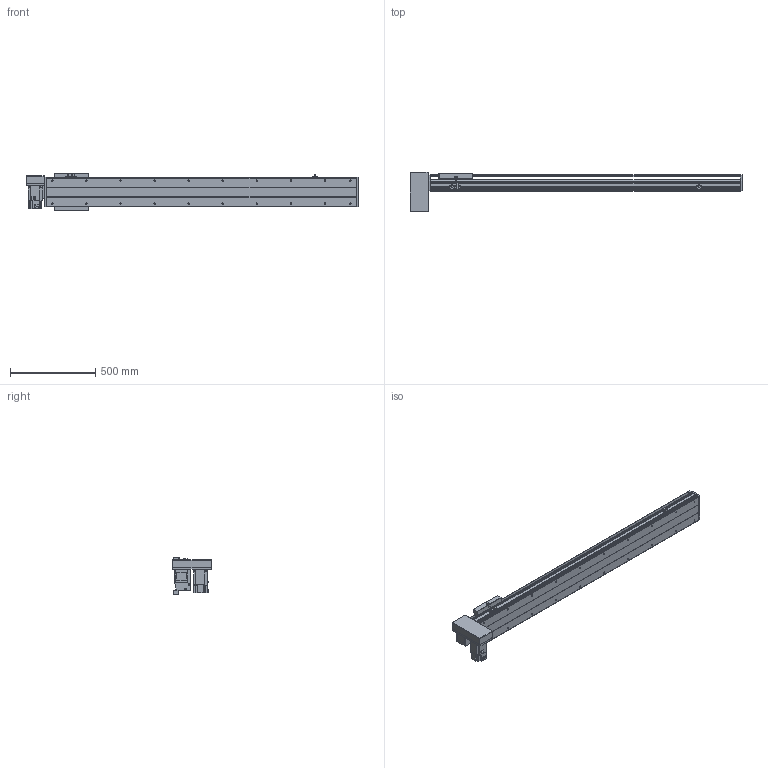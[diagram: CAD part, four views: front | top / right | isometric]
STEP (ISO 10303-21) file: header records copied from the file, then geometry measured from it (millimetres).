
FILE_DESCRIPTION(/* description */ ('STEP AP214'),/* implementation_level */ '2;1');
FILE_NAME(/* name */ 'PBS200-P40-S1450-RD-T75-C1-N(0)',/* time_stamp */ '2022-06-11T09:29:58+02:00',/* author */ ('License CC BY-ND 4.0'),/* organization */ ('CADENAS'),/* preprocessor_version */ 'ST-DEVELOPER v18.102',/* originating_system */ 'PARTsolutions',/* authorisation */ ' ');
FILE_SCHEMA (('AUTOMOTIVE_DESIGN {1 0 10303 214 3 1 1}'));
Length unit declared in the file: millimetre
Products named in the file (7): PBS200-P40-S1450-RD-T75-C1-N(0); PBS200_sensor; PBS200_plant; PBS200_sliser; T75-p1; PBS200T-RD_motors; PBS200-S1450()_body
Assembly tree (8 placements, depth 2):
  PBS200-P40-S1450-RD-T75-C1-N(0)
    PBS200_sensor  x3
    PBS200_plant
    PBS200_sliser
    T75-p1
    PBS200T-RD_motors
    PBS200-S1450()_body
Bounding box: 1950 x 230 x 221 mm (x, y, z)
Volume: 14047396.6 mm3; surface area: 2262518.6 mm2
Topology: 8 solids, 8 shells, 932 faces, 2394 edges, 1560 vertices
Faces by surface type: plane 578, cylinder 302, cone 52
Full cylindrical faces by diameter (mm): 2.459 x6, 3.242 x4, 4.5 x6, 4.917 x4, 5 x6, 6 x7, 6.6 x8, 6.647 x24, 8 x6, 10 x4, 12 x8, 38 x2, 40 x1, 70 x1
Entity records: 24821 total; most frequent: DIRECTION 4375, CARTESIAN_POINT 4228, ORIENTED_EDGE 4006, EDGE_CURVE 2003, AXIS2_PLACEMENT_3D 1531, VERTEX_POINT 1384, LINE 1313, VECTOR 1313
